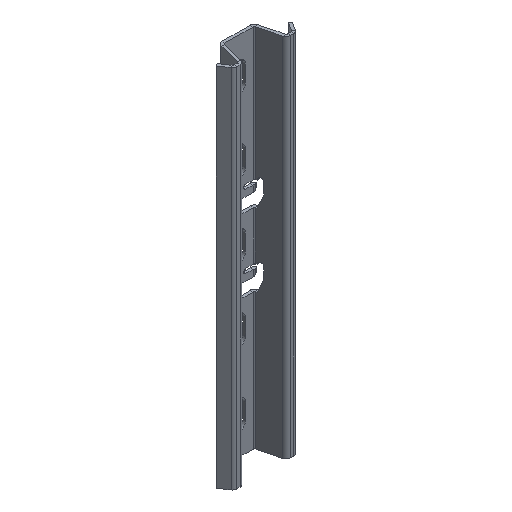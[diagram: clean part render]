
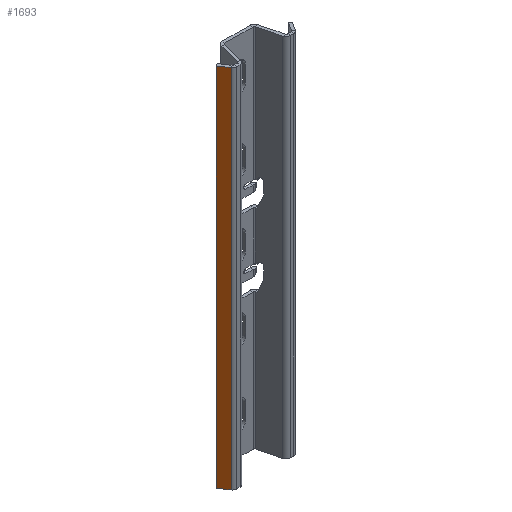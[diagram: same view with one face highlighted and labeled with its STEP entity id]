
A CAD part, isometric view. The second image highlights one B-rep face of the part: STEP entity #1693.
In plain terms, the highlighted planar face has unit normal (-0.832, -0.555, 0).
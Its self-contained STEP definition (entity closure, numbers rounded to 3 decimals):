
#10 = DIRECTION ( 'NONE',  ( -0.832, -0.555, 0. ) ) ;
#171 = ORIENTED_EDGE ( 'NONE', *, *, #2886, .F. ) ;
#226 = VERTEX_POINT ( 'NONE', #3332 ) ;
#238 = LINE ( 'NONE', #1789, #4180 ) ;
#239 = VECTOR ( 'NONE', #4473, 1000. ) ;
#382 = VERTEX_POINT ( 'NONE', #4928 ) ;
#396 = FACE_OUTER_BOUND ( 'NONE', #2782, .T. ) ;
#500 = ORIENTED_EDGE ( 'NONE', *, *, #4179, .T. ) ;
#1100 = DIRECTION ( 'NONE',  ( 0.555, -0.832, 0. ) ) ;
#1259 = LINE ( 'NONE', #1639, #3619 ) ;
#1395 = LINE ( 'NONE', #2941, #239 ) ;
#1402 = DIRECTION ( 'NONE',  ( 0., 0., -1. ) ) ;
#1639 = CARTESIAN_POINT ( 'NONE',  ( -26., -12.606, 0. ) ) ;
#1676 = VERTEX_POINT ( 'NONE', #2717 ) ;
#1693 = ADVANCED_FACE ( 'NONE', ( #396 ), #4909, .T. ) ;
#1758 = LINE ( 'NONE', #3666, #3554 ) ;
#1789 = CARTESIAN_POINT ( 'NONE',  ( -21.961, -18.664, 250. ) ) ;
#2717 = CARTESIAN_POINT ( 'NONE',  ( -21.961, -18.664, 250. ) ) ;
#2782 = EDGE_LOOP ( 'NONE', ( #4008, #171, #500, #4769 ) ) ;
#2886 = EDGE_CURVE ( 'NONE', #1676, #226, #238, .T. ) ;
#2941 = CARTESIAN_POINT ( 'NONE',  ( -26., -12.606, 250. ) ) ;
#2997 = DIRECTION ( 'NONE',  ( 0., 0., -1. ) ) ;
#3332 = CARTESIAN_POINT ( 'NONE',  ( -21.961, -18.664, 0. ) ) ;
#3392 = CARTESIAN_POINT ( 'NONE',  ( -26., -12.606, 250. ) ) ;
#3462 = CARTESIAN_POINT ( 'NONE',  ( -26., -12.606, 0. ) ) ;
#3554 = VECTOR ( 'NONE', #2997, 1000. ) ;
#3619 = VECTOR ( 'NONE', #4265, 1000. ) ;
#3666 = CARTESIAN_POINT ( 'NONE',  ( -26., -12.606, 250. ) ) ;
#3722 = EDGE_CURVE ( 'NONE', #226, #4398, #1259, .T. ) ;
#4008 = ORIENTED_EDGE ( 'NONE', *, *, #3722, .F. ) ;
#4179 = EDGE_CURVE ( 'NONE', #1676, #382, #1395, .T. ) ;
#4180 = VECTOR ( 'NONE', #1402, 1000. ) ;
#4253 = AXIS2_PLACEMENT_3D ( 'NONE', #3392, #10, #1100 ) ;
#4265 = DIRECTION ( 'NONE',  ( -0.555, 0.832, 0. ) ) ;
#4398 = VERTEX_POINT ( 'NONE', #3462 ) ;
#4473 = DIRECTION ( 'NONE',  ( -0.555, 0.832, 0. ) ) ;
#4769 = ORIENTED_EDGE ( 'NONE', *, *, #4927, .T. ) ;
#4909 = PLANE ( 'NONE',  #4253 ) ;
#4927 = EDGE_CURVE ( 'NONE', #382, #4398, #1758, .T. ) ;
#4928 = CARTESIAN_POINT ( 'NONE',  ( -26., -12.606, 250. ) ) ;
